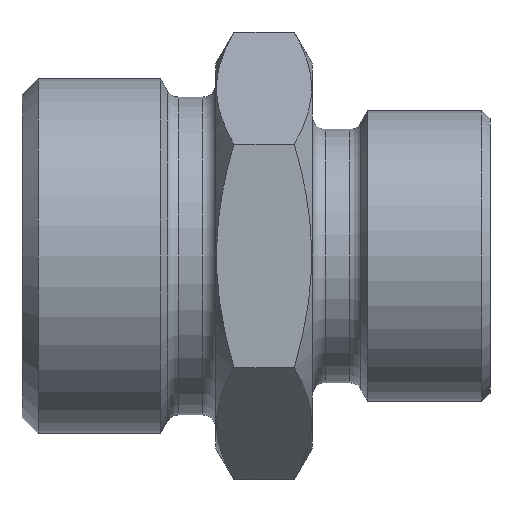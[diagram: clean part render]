
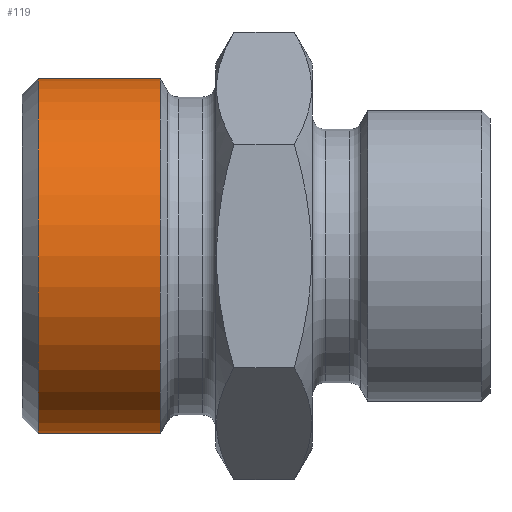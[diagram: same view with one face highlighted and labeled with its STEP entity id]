
A CAD part, front view. The second image highlights one B-rep face of the part: STEP entity #119.
In plain terms, the highlighted cylindrical face has radius 11 mm (diameter 22 mm), a full revolution.
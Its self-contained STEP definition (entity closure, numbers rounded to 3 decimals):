
#119 = ADVANCED_FACE( '', ( #259, #260 ), #261, .T. );
#259 = FACE_OUTER_BOUND( '', #392, .T. );
#260 = FACE_OUTER_BOUND( '', #393, .T. );
#261 = CYLINDRICAL_SURFACE( '', #394, 11. );
#392 = EDGE_LOOP( '', ( #606 ) );
#393 = EDGE_LOOP( '', ( #607 ) );
#394 = AXIS2_PLACEMENT_3D( '', #608, #609, #610 );
#606 = ORIENTED_EDGE( '', *, *, #623, .T. );
#607 = ORIENTED_EDGE( '', *, *, #681, .T. );
#608 = CARTESIAN_POINT( '', ( -60., 0., 0. ) );
#609 = DIRECTION( '', ( 1., 0., 0. ) );
#610 = DIRECTION( '', ( 0., 0., 1. ) );
#623 = EDGE_CURVE( '', #702, #702, #703, .F. );
#681 = EDGE_CURVE( '', #793, #793, #794, .T. );
#702 = VERTEX_POINT( '', #817 );
#703 = CIRCLE( '', #818, 11. );
#793 = VERTEX_POINT( '', #1024 );
#794 = CIRCLE( '', #1025, 11. );
#817 = CARTESIAN_POINT( '', ( -28., 0., 11. ) );
#818 = AXIS2_PLACEMENT_3D( '', #1070, #1071, #1072 );
#1024 = CARTESIAN_POINT( '', ( -20.433, 0., 11. ) );
#1025 = AXIS2_PLACEMENT_3D( '', #1139, #1140, #1141 );
#1070 = CARTESIAN_POINT( '', ( -28., 0., 0. ) );
#1071 = DIRECTION( '', ( -1., 0., 0. ) );
#1072 = DIRECTION( '', ( 0., 0., 1. ) );
#1139 = CARTESIAN_POINT( '', ( -20.433, 0., 0. ) );
#1140 = DIRECTION( '', ( -1., 0., 0. ) );
#1141 = DIRECTION( '', ( 0., 0., 1. ) );
